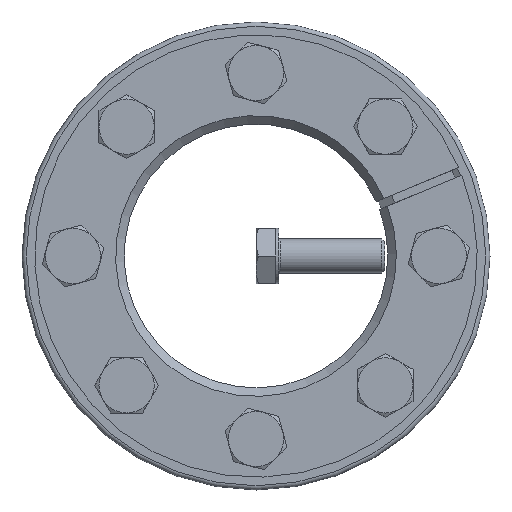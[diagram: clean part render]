
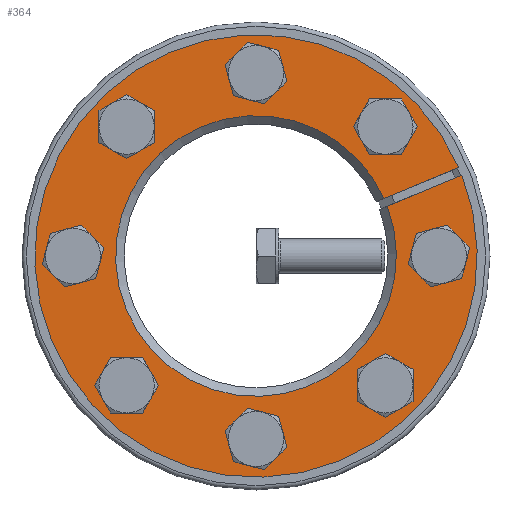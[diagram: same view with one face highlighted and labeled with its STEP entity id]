
A CAD part, front view. The second image highlights one B-rep face of the part: STEP entity #364.
In plain terms, the highlighted planar face has unit normal (0, -1, 0).
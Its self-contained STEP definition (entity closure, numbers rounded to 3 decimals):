
#364 = ADVANCED_FACE( '', ( #582, #583, #584, #585, #586, #587, #588, #589, #590 ), #591, .F. );
#582 = FACE_BOUND( '', #728, .T. );
#583 = FACE_BOUND( '', #729, .T. );
#584 = FACE_BOUND( '', #730, .T. );
#585 = FACE_BOUND( '', #731, .T. );
#586 = FACE_BOUND( '', #732, .T. );
#587 = FACE_BOUND( '', #733, .T. );
#588 = FACE_BOUND( '', #734, .T. );
#589 = FACE_BOUND( '', #735, .T. );
#590 = FACE_OUTER_BOUND( '', #736, .T. );
#591 = PLANE( '', #737 );
#728 = EDGE_LOOP( '', ( #903 ) );
#729 = EDGE_LOOP( '', ( #904 ) );
#730 = EDGE_LOOP( '', ( #905 ) );
#731 = EDGE_LOOP( '', ( #906 ) );
#732 = EDGE_LOOP( '', ( #907 ) );
#733 = EDGE_LOOP( '', ( #908 ) );
#734 = EDGE_LOOP( '', ( #909 ) );
#735 = EDGE_LOOP( '', ( #910 ) );
#736 = EDGE_LOOP( '', ( #911, #912, #913, #914 ) );
#737 = AXIS2_PLACEMENT_3D( '', #915, #916, #917 );
#903 = ORIENTED_EDGE( '', *, *, #1231, .T. );
#904 = ORIENTED_EDGE( '', *, *, #1232, .T. );
#905 = ORIENTED_EDGE( '', *, *, #1233, .T. );
#906 = ORIENTED_EDGE( '', *, *, #1234, .T. );
#907 = ORIENTED_EDGE( '', *, *, #1235, .T. );
#908 = ORIENTED_EDGE( '', *, *, #1236, .T. );
#909 = ORIENTED_EDGE( '', *, *, #1237, .T. );
#910 = ORIENTED_EDGE( '', *, *, #1238, .T. );
#911 = ORIENTED_EDGE( '', *, *, #1239, .T. );
#912 = ORIENTED_EDGE( '', *, *, #1240, .T. );
#913 = ORIENTED_EDGE( '', *, *, #1241, .F. );
#914 = ORIENTED_EDGE( '', *, *, #1242, .T. );
#915 = CARTESIAN_POINT( '', ( 0., 0., 55. ) );
#916 = DIRECTION( '', ( 0., 1., 0. ) );
#917 = DIRECTION( '', ( 0., 0., 1. ) );
#1231 = EDGE_CURVE( '', #1352, #1352, #1353, .T. );
#1232 = EDGE_CURVE( '', #1354, #1354, #1355, .T. );
#1233 = EDGE_CURVE( '', #1356, #1356, #1357, .T. );
#1234 = EDGE_CURVE( '', #1358, #1358, #1359, .T. );
#1235 = EDGE_CURVE( '', #1360, #1360, #1361, .T. );
#1236 = EDGE_CURVE( '', #1362, #1362, #1363, .T. );
#1237 = EDGE_CURVE( '', #1364, #1364, #1365, .T. );
#1238 = EDGE_CURVE( '', #1366, #1366, #1367, .T. );
#1239 = EDGE_CURVE( '', #1368, #1369, #1370, .T. );
#1240 = EDGE_CURVE( '', #1369, #1371, #1372, .T. );
#1241 = EDGE_CURVE( '', #1373, #1371, #1374, .T. );
#1242 = EDGE_CURVE( '', #1373, #1368, #1375, .T. );
#1352 = VERTEX_POINT( '', #1445 );
#1353 = CIRCLE( '', #1446, 4. );
#1354 = VERTEX_POINT( '', #1447 );
#1355 = CIRCLE( '', #1448, 4. );
#1356 = VERTEX_POINT( '', #1449 );
#1357 = CIRCLE( '', #1450, 4. );
#1358 = VERTEX_POINT( '', #1451 );
#1359 = CIRCLE( '', #1452, 4. );
#1360 = VERTEX_POINT( '', #1453 );
#1361 = CIRCLE( '', #1454, 4. );
#1362 = VERTEX_POINT( '', #1455 );
#1363 = CIRCLE( '', #1456, 4. );
#1364 = VERTEX_POINT( '', #1457 );
#1365 = CIRCLE( '', #1458, 4. );
#1366 = VERTEX_POINT( '', #1459 );
#1367 = CIRCLE( '', #1460, 4. );
#1368 = VERTEX_POINT( '', #1461 );
#1369 = VERTEX_POINT( '', #1462 );
#1370 = LINE( '', #1463, #1464 );
#1371 = VERTEX_POINT( '', #1465 );
#1372 = CIRCLE( '', #1466, 33. );
#1373 = VERTEX_POINT( '', #1467 );
#1374 = LINE( '', #1468, #1469 );
#1375 = CIRCLE( '', #1470, 52. );
#1445 = CARTESIAN_POINT( '', ( 27.577, 0., -33.234 ) );
#1446 = AXIS2_PLACEMENT_3D( '', #1576, #1577, #1578 );
#1447 = CARTESIAN_POINT( '', ( -33.234, 0., -27.577 ) );
#1448 = AXIS2_PLACEMENT_3D( '', #1579, #1580, #1581 );
#1449 = CARTESIAN_POINT( '', ( -27.577, 0., 33.234 ) );
#1450 = AXIS2_PLACEMENT_3D( '', #1582, #1583, #1584 );
#1451 = CARTESIAN_POINT( '', ( 33.234, 0., 27.577 ) );
#1452 = AXIS2_PLACEMENT_3D( '', #1585, #1586, #1587 );
#1453 = CARTESIAN_POINT( '', ( 43., 0., -4. ) );
#1454 = AXIS2_PLACEMENT_3D( '', #1588, #1589, #1590 );
#1455 = CARTESIAN_POINT( '', ( 4., 0., 43. ) );
#1456 = AXIS2_PLACEMENT_3D( '', #1591, #1592, #1593 );
#1457 = CARTESIAN_POINT( '', ( -43., 0., 4. ) );
#1458 = AXIS2_PLACEMENT_3D( '', #1594, #1595, #1596 );
#1459 = CARTESIAN_POINT( '', ( -4., 0., -43. ) );
#1460 = AXIS2_PLACEMENT_3D( '', #1597, #1598, #1599 );
#1461 = CARTESIAN_POINT( '', ( 48.416, 0., 18.972 ) );
#1462 = CARTESIAN_POINT( '', ( 30.857, 0., 11.699 ) );
#1463 = CARTESIAN_POINT( '', ( 48.424, 0., 18.976 ) );
#1464 = VECTOR( '', #1600, 1000. );
#1465 = CARTESIAN_POINT( '', ( 30.091, 0., 13.547 ) );
#1466 = AXIS2_PLACEMENT_3D( '', #1601, #1602, #1603 );
#1467 = CARTESIAN_POINT( '', ( 47.65, 0., 20.82 ) );
#1468 = CARTESIAN_POINT( '', ( 47.659, 0., 20.823 ) );
#1469 = VECTOR( '', #1604, 1000. );
#1470 = AXIS2_PLACEMENT_3D( '', #1605, #1606, #1607 );
#1576 = CARTESIAN_POINT( '', ( 30.406, 0., -30.406 ) );
#1577 = DIRECTION( '', ( 0., 1., 0. ) );
#1578 = DIRECTION( '', ( -0.707, 0., -0.707 ) );
#1579 = CARTESIAN_POINT( '', ( -30.406, 0., -30.406 ) );
#1580 = DIRECTION( '', ( 0., 1., 0. ) );
#1581 = DIRECTION( '', ( -0.707, 0., 0.707 ) );
#1582 = CARTESIAN_POINT( '', ( -30.406, 0., 30.406 ) );
#1583 = DIRECTION( '', ( 0., 1., 0. ) );
#1584 = DIRECTION( '', ( 0.707, 0., 0.707 ) );
#1585 = CARTESIAN_POINT( '', ( 30.406, 0., 30.406 ) );
#1586 = DIRECTION( '', ( 0., 1., 0. ) );
#1587 = DIRECTION( '', ( 0.707, 0., -0.707 ) );
#1588 = CARTESIAN_POINT( '', ( 43., 0., 0. ) );
#1589 = DIRECTION( '', ( 0., 1., 0. ) );
#1590 = DIRECTION( '', ( 0., 0., -1. ) );
#1591 = CARTESIAN_POINT( '', ( 0., 0., 43. ) );
#1592 = DIRECTION( '', ( 0., 1., 0. ) );
#1593 = DIRECTION( '', ( 1., 0., 0. ) );
#1594 = CARTESIAN_POINT( '', ( -43., 0., 0. ) );
#1595 = DIRECTION( '', ( 0., 1., 0. ) );
#1596 = DIRECTION( '', ( 0., 0., 1. ) );
#1597 = CARTESIAN_POINT( '', ( 0., 0., -43. ) );
#1598 = DIRECTION( '', ( 0., 1., 0. ) );
#1599 = DIRECTION( '', ( -1., 0., 0. ) );
#1600 = DIRECTION( '', ( -0.924, 0., -0.383 ) );
#1601 = CARTESIAN_POINT( '', ( 0., 0., 0. ) );
#1602 = DIRECTION( '', ( 0., 1., 0. ) );
#1603 = DIRECTION( '', ( 0., 0., 1. ) );
#1604 = DIRECTION( '', ( -0.924, 0., -0.383 ) );
#1605 = CARTESIAN_POINT( '', ( 0., 0., 0. ) );
#1606 = DIRECTION( '', ( 0., -1., 0. ) );
#1607 = DIRECTION( '', ( 0., 0., -1. ) );
